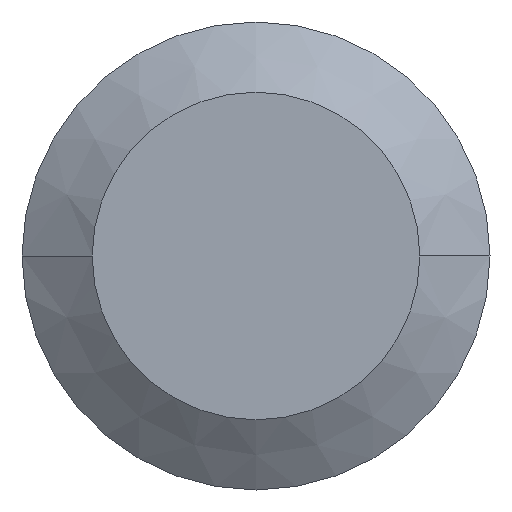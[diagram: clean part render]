
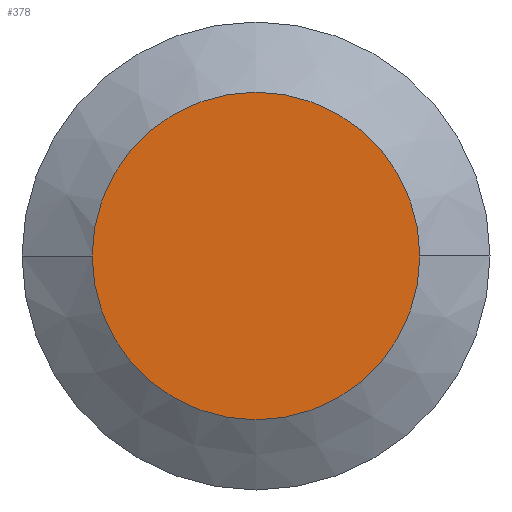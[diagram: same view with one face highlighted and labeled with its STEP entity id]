
A CAD part, front view. The second image highlights one B-rep face of the part: STEP entity #378.
In plain terms, the highlighted planar face has unit normal (0, -1, 0).
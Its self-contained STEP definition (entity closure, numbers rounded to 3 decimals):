
#172 = VERTEX_POINT( '', #467 );
#190 = EDGE_CURVE( '', #424, #172, #487, .T. );
#356 = EDGE_CURVE( '', #172, #424, #673, .T. );
#378 = ADVANCED_FACE( '', ( #699 ), #700, .T. );
#424 = VERTEX_POINT( '', #756 );
#467 = CARTESIAN_POINT( '', ( 10.5, -23., 0. ) );
#487 = CIRCLE( '', #817, 10.5 );
#673 = CIRCLE( '', #1060, 10.5 );
#699 = FACE_OUTER_BOUND( '', #1090, .T. );
#700 = PLANE( '', #1091 );
#756 = CARTESIAN_POINT( '', ( -10.5, -23., 0. ) );
#817 = AXIS2_PLACEMENT_3D( '', #1227, #1228, #1229 );
#1060 = AXIS2_PLACEMENT_3D( '', #1435, #1436, #1437 );
#1090 = EDGE_LOOP( '', ( #1483, #1484 ) );
#1091 = AXIS2_PLACEMENT_3D( '', #1485, #1486, #1487 );
#1227 = CARTESIAN_POINT( '', ( 0., -23., 0. ) );
#1228 = DIRECTION( '', ( 0., -1., 0. ) );
#1229 = DIRECTION( '', ( -1., 0., 0. ) );
#1435 = CARTESIAN_POINT( '', ( 0., -23., 0. ) );
#1436 = DIRECTION( '', ( 0., -1., 0. ) );
#1437 = DIRECTION( '', ( -1., 0., 0. ) );
#1483 = ORIENTED_EDGE( '', *, *, #190, .T. );
#1484 = ORIENTED_EDGE( '', *, *, #356, .T. );
#1485 = CARTESIAN_POINT( '', ( -5.25, -23., 0. ) );
#1486 = DIRECTION( '', ( 0., -1., 0. ) );
#1487 = DIRECTION( '', ( -1., 0., 0. ) );
